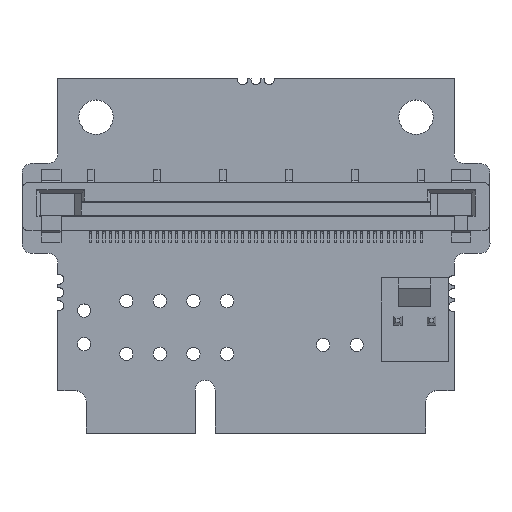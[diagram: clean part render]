
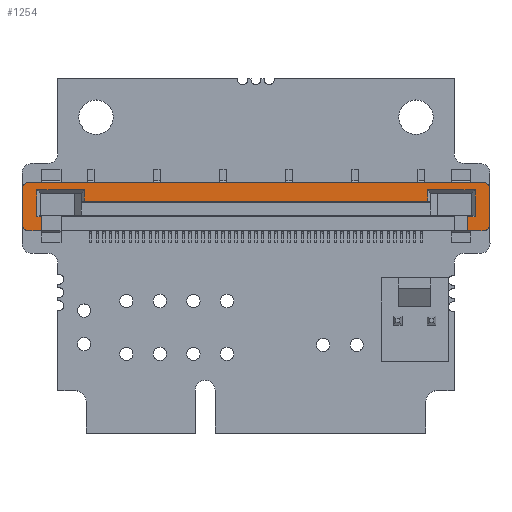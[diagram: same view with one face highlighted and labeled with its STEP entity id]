
A CAD part, top view. The second image highlights one B-rep face of the part: STEP entity #1254.
In plain terms, the highlighted planar face has unit normal (0, 0, 1).
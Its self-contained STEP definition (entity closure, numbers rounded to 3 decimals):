
#638=CIRCLE('',#19178,0.5);
#639=CIRCLE('',#19179,0.5);
#640=CIRCLE('',#19180,0.5);
#641=CIRCLE('',#19181,0.5);
#1254=ADVANCED_FACE('',(#2891),#2185,.T.);
#2185=PLANE('',#19182);
#2891=FACE_OUTER_BOUND('',#3946,.T.);
#3946=EDGE_LOOP('',(#5765,#5766,#5767,#5768,#5769,#5770,#5771,#5772,#5773,
#5774,#5775,#5776,#5777,#5778,#5779,#5780,#5781,#5782,#5783,#5784));
#5765=ORIENTED_EDGE('',*,*,#12769,.T.);
#5766=ORIENTED_EDGE('',*,*,#12770,.T.);
#5767=ORIENTED_EDGE('',*,*,#12771,.T.);
#5768=ORIENTED_EDGE('',*,*,#12772,.T.);
#5769=ORIENTED_EDGE('',*,*,#12773,.T.);
#5770=ORIENTED_EDGE('',*,*,#12774,.F.);
#5771=ORIENTED_EDGE('',*,*,#12775,.T.);
#5772=ORIENTED_EDGE('',*,*,#12776,.T.);
#5773=ORIENTED_EDGE('',*,*,#12777,.T.);
#5774=ORIENTED_EDGE('',*,*,#12778,.T.);
#5775=ORIENTED_EDGE('',*,*,#12779,.T.);
#5776=ORIENTED_EDGE('',*,*,#12780,.T.);
#5777=ORIENTED_EDGE('',*,*,#12781,.T.);
#5778=ORIENTED_EDGE('',*,*,#12782,.T.);
#5779=ORIENTED_EDGE('',*,*,#12783,.T.);
#5780=ORIENTED_EDGE('',*,*,#12784,.F.);
#5781=ORIENTED_EDGE('',*,*,#12785,.T.);
#5782=ORIENTED_EDGE('',*,*,#12786,.T.);
#5783=ORIENTED_EDGE('',*,*,#12787,.T.);
#5784=ORIENTED_EDGE('',*,*,#12788,.T.);
#10863=VERTEX_POINT('',#27255);
#10864=VERTEX_POINT('',#27256);
#10865=VERTEX_POINT('',#27258);
#10866=VERTEX_POINT('',#27260);
#10867=VERTEX_POINT('',#27262);
#10868=VERTEX_POINT('',#27264);
#10869=VERTEX_POINT('',#27266);
#10870=VERTEX_POINT('',#27268);
#10871=VERTEX_POINT('',#27270);
#10872=VERTEX_POINT('',#27272);
#10873=VERTEX_POINT('',#27274);
#10874=VERTEX_POINT('',#27276);
#10875=VERTEX_POINT('',#27278);
#10876=VERTEX_POINT('',#27280);
#10877=VERTEX_POINT('',#27282);
#10878=VERTEX_POINT('',#27284);
#10879=VERTEX_POINT('',#27286);
#10880=VERTEX_POINT('',#27288);
#10881=VERTEX_POINT('',#27290);
#10882=VERTEX_POINT('',#27292);
#12769=EDGE_CURVE('',#10863,#10864,#15359,.T.);
#12770=EDGE_CURVE('',#10864,#10865,#15360,.T.);
#12771=EDGE_CURVE('',#10865,#10866,#15361,.T.);
#12772=EDGE_CURVE('',#10866,#10867,#15362,.T.);
#12773=EDGE_CURVE('',#10867,#10868,#15363,.T.);
#12774=EDGE_CURVE('',#10869,#10868,#15364,.T.);
#12775=EDGE_CURVE('',#10869,#10870,#15365,.T.);
#12776=EDGE_CURVE('',#10870,#10871,#638,.T.);
#12777=EDGE_CURVE('',#10871,#10872,#15366,.T.);
#12778=EDGE_CURVE('',#10872,#10873,#639,.T.);
#12779=EDGE_CURVE('',#10873,#10874,#15367,.T.);
#12780=EDGE_CURVE('',#10874,#10875,#640,.T.);
#12781=EDGE_CURVE('',#10875,#10876,#15368,.T.);
#12782=EDGE_CURVE('',#10876,#10877,#641,.T.);
#12783=EDGE_CURVE('',#10877,#10878,#15369,.T.);
#12784=EDGE_CURVE('',#10879,#10878,#15370,.T.);
#12785=EDGE_CURVE('',#10879,#10880,#15371,.T.);
#12786=EDGE_CURVE('',#10880,#10881,#15372,.T.);
#12787=EDGE_CURVE('',#10881,#10882,#15373,.T.);
#12788=EDGE_CURVE('',#10882,#10863,#15374,.T.);
#15359=LINE('',#27254,#17427);
#15360=LINE('',#27257,#17428);
#15361=LINE('',#27259,#17429);
#15362=LINE('',#27261,#17430);
#15363=LINE('',#27263,#17431);
#15364=LINE('',#27265,#17432);
#15365=LINE('',#27267,#17433);
#15366=LINE('',#27271,#17434);
#15367=LINE('',#27275,#17435);
#15368=LINE('',#27279,#17436);
#15369=LINE('',#27283,#17437);
#15370=LINE('',#27285,#17438);
#15371=LINE('',#27287,#17439);
#15372=LINE('',#27289,#17440);
#15373=LINE('',#27291,#17441);
#15374=LINE('',#27293,#17442);
#17427=VECTOR('',#21607,1.);
#17428=VECTOR('',#21608,1.);
#17429=VECTOR('',#21609,1.);
#17430=VECTOR('',#21610,1.);
#17431=VECTOR('',#21611,1.);
#17432=VECTOR('',#21612,1.);
#17433=VECTOR('',#21613,1.);
#17434=VECTOR('',#21616,1.);
#17435=VECTOR('',#21619,1.);
#17436=VECTOR('',#21622,1.);
#17437=VECTOR('',#21625,1.);
#17438=VECTOR('',#21626,1.);
#17439=VECTOR('',#21627,1.);
#17440=VECTOR('',#21628,1.);
#17441=VECTOR('',#21629,1.);
#17442=VECTOR('',#21630,1.);
#19178=AXIS2_PLACEMENT_3D('',#27269,#21614,#21615);
#19179=AXIS2_PLACEMENT_3D('',#27273,#21617,#21618);
#19180=AXIS2_PLACEMENT_3D('',#27277,#21620,#21621);
#19181=AXIS2_PLACEMENT_3D('',#27281,#21623,#21624);
#19182=AXIS2_PLACEMENT_3D('',#27294,#21631,#21632);
#21607=DIRECTION('',(1.,0.,0.));
#21608=DIRECTION('',(0.,1.,0.));
#21609=DIRECTION('',(1.,0.,0.));
#21610=DIRECTION('',(0.,-1.,0.));
#21611=DIRECTION('',(-1.,0.,0.));
#21612=DIRECTION('',(0.,1.,0.));
#21613=DIRECTION('',(1.,0.,0.));
#21614=DIRECTION('',(0.,0.,1.));
#21615=DIRECTION('',(-1.,0.,0.));
#21616=DIRECTION('',(0.,1.,0.));
#21617=DIRECTION('',(0.,0.,1.));
#21618=DIRECTION('',(-1.,0.,0.));
#21619=DIRECTION('',(-1.,0.,0.));
#21620=DIRECTION('',(0.,0.,1.));
#21621=DIRECTION('',(-1.,0.,0.));
#21622=DIRECTION('',(0.,-1.,0.));
#21623=DIRECTION('',(0.,0.,1.));
#21624=DIRECTION('',(-1.,0.,0.));
#21625=DIRECTION('',(1.,0.,0.));
#21626=DIRECTION('',(0.,-1.,0.));
#21627=DIRECTION('',(-1.,0.,0.));
#21628=DIRECTION('',(0.,1.,0.));
#21629=DIRECTION('',(1.,0.,0.));
#21630=DIRECTION('',(0.,-1.,0.));
#21631=DIRECTION('',(0.,0.,1.));
#21632=DIRECTION('',(1.,0.,0.));
#27254=CARTESIAN_POINT('',(28.225,17.545,4.65));
#27255=CARTESIAN_POINT('',(2.025,17.545,4.65));
#27256=CARTESIAN_POINT('',(27.975,17.545,4.65));
#27257=CARTESIAN_POINT('',(27.975,18.145,4.65));
#27258=CARTESIAN_POINT('',(27.975,18.395,4.65));
#27259=CARTESIAN_POINT('',(31.325,18.395,4.65));
#27260=CARTESIAN_POINT('',(31.575,18.395,4.65));
#27261=CARTESIAN_POINT('',(31.575,16.375,4.65));
#27262=CARTESIAN_POINT('',(31.575,16.375,4.65));
#27263=CARTESIAN_POINT('',(-1.325,16.375,4.65));
#27264=CARTESIAN_POINT('',(31.,16.375,4.65));
#27265=CARTESIAN_POINT('',(31.,15.295,4.65));
#27266=CARTESIAN_POINT('',(31.,15.295,4.65));
#27267=CARTESIAN_POINT('',(32.675,15.295,4.65));
#27268=CARTESIAN_POINT('',(32.175,15.295,4.65));
#27269=CARTESIAN_POINT('',(32.175,15.795,4.65));
#27270=CARTESIAN_POINT('',(32.675,15.795,4.65));
#27271=CARTESIAN_POINT('',(32.675,15.295,4.65));
#27272=CARTESIAN_POINT('',(32.675,18.445,4.65));
#27273=CARTESIAN_POINT('',(32.175,18.445,4.65));
#27274=CARTESIAN_POINT('',(32.175,18.945,4.65));
#27275=CARTESIAN_POINT('',(32.675,18.945,4.65));
#27276=CARTESIAN_POINT('',(-2.175,18.945,4.65));
#27277=CARTESIAN_POINT('',(-2.175,18.445,4.65));
#27278=CARTESIAN_POINT('',(-2.675,18.445,4.65));
#27279=CARTESIAN_POINT('',(-2.675,15.295,4.65));
#27280=CARTESIAN_POINT('',(-2.675,15.795,4.65));
#27281=CARTESIAN_POINT('',(-2.175,15.795,4.65));
#27282=CARTESIAN_POINT('',(-2.175,15.295,4.65));
#27283=CARTESIAN_POINT('',(32.675,15.295,4.65));
#27284=CARTESIAN_POINT('',(-1.25,15.295,4.65));
#27285=CARTESIAN_POINT('',(-1.25,15.295,4.65));
#27286=CARTESIAN_POINT('',(-1.25,16.375,4.65));
#27287=CARTESIAN_POINT('',(-1.325,16.375,4.65));
#27288=CARTESIAN_POINT('',(-1.575,16.375,4.65));
#27289=CARTESIAN_POINT('',(-1.575,18.145,4.65));
#27290=CARTESIAN_POINT('',(-1.575,18.395,4.65));
#27291=CARTESIAN_POINT('',(1.775,18.395,4.65));
#27292=CARTESIAN_POINT('',(2.025,18.395,4.65));
#27293=CARTESIAN_POINT('',(2.025,17.545,4.65));
#27294=CARTESIAN_POINT('',(32.675,18.945,4.65));
